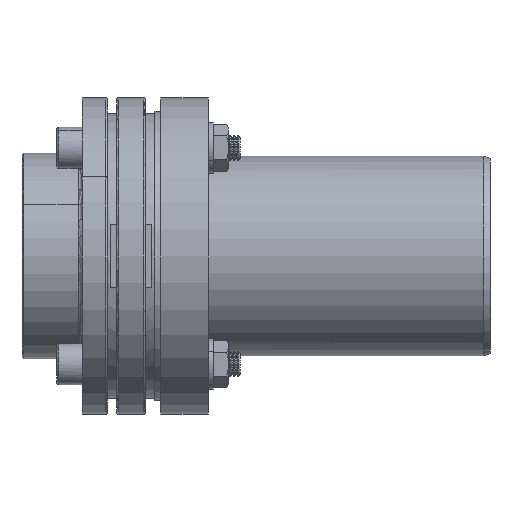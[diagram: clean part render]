
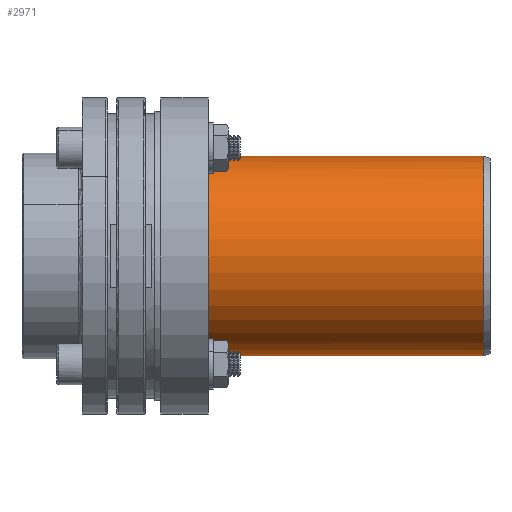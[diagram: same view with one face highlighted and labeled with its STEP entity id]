
A CAD part, left-side view. The second image highlights one B-rep face of the part: STEP entity #2971.
In plain terms, the highlighted cylindrical face has radius 31.6 mm (diameter 63.2 mm), a partial arc.
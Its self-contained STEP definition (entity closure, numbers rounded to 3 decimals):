
#493 = CARTESIAN_POINT ( 'NONE',  ( -16.767, 89.105, 26.785 ) ) ;
#508 = CARTESIAN_POINT ( 'NONE',  ( -14.813, 87.505, -27.913 ) ) ;
#532 = CARTESIAN_POINT ( 'NONE',  ( -14.813, 89.105, -27.913 ) ) ;
#598 = EDGE_LOOP ( 'NONE', ( #15979, #15980, #15981, #15982 ) ) ;
#600 = EDGE_LOOP ( 'NONE', ( #15971, #15972, #15973, #15974 ) ) ;
#605 = EDGE_LOOP ( 'NONE', ( #15975, #15976, #15977, #15978 ) ) ;
#1103 = AXIS2_PLACEMENT_3D ( 'NONE', #19204, #19200, #19206 ) ;
#2753 = VECTOR ( 'NONE', #13332, 1000. ) ;
#2971 = ADVANCED_FACE ( 'NONE', ( #19201, #19199, #19203 ), #19202, .T. ) ;
#6478 = CIRCLE ( 'NONE', #6483, 31.6 ) ;
#6483 = AXIS2_PLACEMENT_3D ( 'NONE', #20620, #20621, #20622 ) ;
#6503 = VECTOR ( 'NONE', #20677, 1000. ) ;
#6509 = CIRCLE ( 'NONE', #6522, 31.6 ) ;
#6511 = VECTOR ( 'NONE', #20680, 1000. ) ;
#6512 = CIRCLE ( 'NONE', #6514, 31.6 ) ;
#6513 = VECTOR ( 'NONE', #20684, 1000. ) ;
#6514 = AXIS2_PLACEMENT_3D ( 'NONE', #20681, #20682, #20683 ) ;
#6515 = CIRCLE ( 'NONE', #6517, 31.6 ) ;
#6516 = CIRCLE ( 'NONE', #6519, 31.6 ) ;
#6517 = AXIS2_PLACEMENT_3D ( 'NONE', #20687, #20688, #20689 ) ;
#6518 = VECTOR ( 'NONE', #20693, 1000. ) ;
#6519 = AXIS2_PLACEMENT_3D ( 'NONE', #20690, #20691, #20692 ) ;
#6521 = CIRCLE ( 'NONE', #6524, 31.6 ) ;
#6522 = AXIS2_PLACEMENT_3D ( 'NONE', #20694, #20695, #20696 ) ;
#6524 = AXIS2_PLACEMENT_3D ( 'NONE', #20697, #20698, #20699 ) ;
#7908 = EDGE_CURVE ( 'NONE', #15096, #17302, #13329, .T. ) ;
#9608 = CARTESIAN_POINT ( 'NONE',  ( -16.767, 87.505, 26.785 ) ) ;
#9613 = CARTESIAN_POINT ( 'NONE',  ( 0., 93.715, -31.6 ) ) ;
#9629 = CARTESIAN_POINT ( 'NONE',  ( 0., 2., 31.6 ) ) ;
#9642 = CARTESIAN_POINT ( 'NONE',  ( 0., 2., -31.6 ) ) ;
#9651 = CARTESIAN_POINT ( 'NONE',  ( 0., 93.715, 31.6 ) ) ;
#9671 = CARTESIAN_POINT ( 'NONE',  ( -14.813, 89.105, 27.913 ) ) ;
#9672 = CARTESIAN_POINT ( 'NONE',  ( -16.767, 87.505, -26.785 ) ) ;
#9688 = CARTESIAN_POINT ( 'NONE',  ( -14.813, 87.505, 27.913 ) ) ;
#9692 = CARTESIAN_POINT ( 'NONE',  ( -16.767, 89.105, -26.785 ) ) ;
#12017 = EDGE_CURVE ( 'NONE', #15139, #15101, #6478, .T. ) ;
#12035 = EDGE_CURVE ( 'NONE', #15139, #15117, #20673, .T. ) ;
#12036 = EDGE_CURVE ( 'NONE', #15101, #15130, #20678, .T. ) ;
#12037 = EDGE_CURVE ( 'NONE', #15117, #15130, #6512, .T. ) ;
#12038 = EDGE_CURVE ( 'NONE', #15159, #15176, #20663, .T. ) ;
#12039 = EDGE_CURVE ( 'NONE', #15176, #15096, #6515, .T. ) ;
#12040 = EDGE_CURVE ( 'NONE', #17302, #15159, #6516, .T. ) ;
#12041 = EDGE_CURVE ( 'NONE', #15180, #15160, #20685, .T. ) ;
#12042 = EDGE_CURVE ( 'NONE', #15160, #17317, #6509, .T. ) ;
#12043 = EDGE_CURVE ( 'NONE', #17341, #15180, #6521, .T. ) ;
#12164 = EDGE_CURVE ( 'NONE', #17317, #17341, #20924, .T. ) ;
#13329 = LINE ( 'NONE', #13331, #2753 ) ;
#13331 = CARTESIAN_POINT ( 'NONE',  ( -16.767, 88.305, 26.785 ) ) ;
#13332 = DIRECTION ( 'NONE',  ( 0., 1., 0. ) ) ;
#15096 = VERTEX_POINT ( 'NONE', #9608 ) ;
#15101 = VERTEX_POINT ( 'NONE', #9613 ) ;
#15117 = VERTEX_POINT ( 'NONE', #9629 ) ;
#15130 = VERTEX_POINT ( 'NONE', #9642 ) ;
#15139 = VERTEX_POINT ( 'NONE', #9651 ) ;
#15159 = VERTEX_POINT ( 'NONE', #9671 ) ;
#15160 = VERTEX_POINT ( 'NONE', #9672 ) ;
#15176 = VERTEX_POINT ( 'NONE', #9688 ) ;
#15180 = VERTEX_POINT ( 'NONE', #9692 ) ;
#15971 = ORIENTED_EDGE ( 'NONE', *, *, #12035, .F. ) ;
#15972 = ORIENTED_EDGE ( 'NONE', *, *, #12017, .T. ) ;
#15973 = ORIENTED_EDGE ( 'NONE', *, *, #12036, .T. ) ;
#15974 = ORIENTED_EDGE ( 'NONE', *, *, #12037, .F. ) ;
#15975 = ORIENTED_EDGE ( 'NONE', *, *, #12038, .T. ) ;
#15976 = ORIENTED_EDGE ( 'NONE', *, *, #12039, .T. ) ;
#15977 = ORIENTED_EDGE ( 'NONE', *, *, #7908, .T. ) ;
#15978 = ORIENTED_EDGE ( 'NONE', *, *, #12040, .T. ) ;
#15979 = ORIENTED_EDGE ( 'NONE', *, *, #12041, .T. ) ;
#15980 = ORIENTED_EDGE ( 'NONE', *, *, #12042, .T. ) ;
#15981 = ORIENTED_EDGE ( 'NONE', *, *, #12164, .T. ) ;
#15982 = ORIENTED_EDGE ( 'NONE', *, *, #12043, .T. ) ;
#17302 = VERTEX_POINT ( 'NONE', #493 ) ;
#17317 = VERTEX_POINT ( 'NONE', #508 ) ;
#17341 = VERTEX_POINT ( 'NONE', #532 ) ;
#19199 = FACE_BOUND ( 'NONE', #605, .T. ) ;
#19200 = DIRECTION ( 'NONE',  ( 0., -1., 0. ) ) ;
#19201 = FACE_OUTER_BOUND ( 'NONE', #600, .T. ) ;
#19202 = CYLINDRICAL_SURFACE ( 'NONE', #1103, 31.6 ) ;
#19203 = FACE_BOUND ( 'NONE', #598, .T. ) ;
#19204 = CARTESIAN_POINT ( 'NONE',  ( 0., 0., 0. ) ) ;
#19206 = DIRECTION ( 'NONE',  ( 0., 0., -1. ) ) ;
#20620 = CARTESIAN_POINT ( 'NONE',  ( 0., 93.715, 0. ) ) ;
#20621 = DIRECTION ( 'NONE',  ( 0., -1., 0. ) ) ;
#20622 = DIRECTION ( 'NONE',  ( 0., 0., -1. ) ) ;
#20663 = LINE ( 'NONE', #20672, #6513 ) ;
#20668 = CARTESIAN_POINT ( 'NONE',  ( 0., 0., 31.6 ) ) ;
#20672 = CARTESIAN_POINT ( 'NONE',  ( -14.813, 88.305, 27.913 ) ) ;
#20673 = LINE ( 'NONE', #20668, #6503 ) ;
#20677 = DIRECTION ( 'NONE',  ( 0., -1., 0. ) ) ;
#20678 = LINE ( 'NONE', #20679, #6511 ) ;
#20679 = CARTESIAN_POINT ( 'NONE',  ( 0., 0., -31.6 ) ) ;
#20680 = DIRECTION ( 'NONE',  ( 0., -1., 0. ) ) ;
#20681 = CARTESIAN_POINT ( 'NONE',  ( 0., 2., 0. ) ) ;
#20682 = DIRECTION ( 'NONE',  ( 0., -1., 0. ) ) ;
#20683 = DIRECTION ( 'NONE',  ( 0., 0., -1. ) ) ;
#20684 = DIRECTION ( 'NONE',  ( 0., -1., 0. ) ) ;
#20685 = LINE ( 'NONE', #20686, #6518 ) ;
#20686 = CARTESIAN_POINT ( 'NONE',  ( -16.767, 88.305, -26.785 ) ) ;
#20687 = CARTESIAN_POINT ( 'NONE',  ( 0., 87.505, 0. ) ) ;
#20688 = DIRECTION ( 'NONE',  ( 0., -1., 0. ) ) ;
#20689 = DIRECTION ( 'NONE',  ( -1., 0., 0. ) ) ;
#20690 = CARTESIAN_POINT ( 'NONE',  ( 0., 89.105, 0. ) ) ;
#20691 = DIRECTION ( 'NONE',  ( 0., 1., 0. ) ) ;
#20692 = DIRECTION ( 'NONE',  ( 1., 0., 0. ) ) ;
#20693 = DIRECTION ( 'NONE',  ( 0., -1., 0. ) ) ;
#20694 = CARTESIAN_POINT ( 'NONE',  ( 0., 87.505, 0. ) ) ;
#20695 = DIRECTION ( 'NONE',  ( 0., -1., 0. ) ) ;
#20696 = DIRECTION ( 'NONE',  ( 0., 0., 1. ) ) ;
#20697 = CARTESIAN_POINT ( 'NONE',  ( 0., 89.105, 0. ) ) ;
#20698 = DIRECTION ( 'NONE',  ( 0., 1., 0. ) ) ;
#20699 = DIRECTION ( 'NONE',  ( 0., 0., -1. ) ) ;
#20924 = LINE ( 'NONE', #20925, #21085 ) ;
#20925 = CARTESIAN_POINT ( 'NONE',  ( -14.813, 88.305, -27.913 ) ) ;
#20934 = DIRECTION ( 'NONE',  ( 0., 1., 0. ) ) ;
#21085 = VECTOR ( 'NONE', #20934, 1000. ) ;
